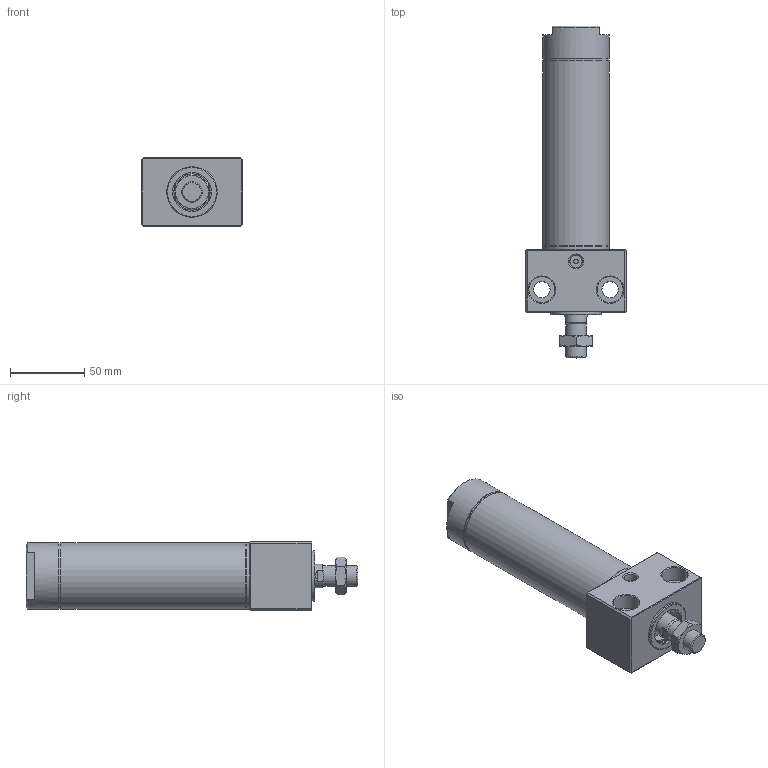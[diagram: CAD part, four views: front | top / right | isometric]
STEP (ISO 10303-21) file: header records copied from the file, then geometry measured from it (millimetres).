
FILE_DESCRIPTION((''),'2;1');
FILE_NAME('I:\3D電子目錄\氣缸\DBS\DBS\DBS40x75.stp','2007-10-08T08:49:02',('Administrator'),(''),'Autodesk Inventor 2008','Autodesk Inventor 2008','');
FILE_SCHEMA(('AUTOMOTIVE_DESIGN { 1 0 10303 214 1 1 1 1 }'));
Length unit declared in the file: millimetre
Products named in the file (1): DBS40x75
Bounding box: 68 x 223.6 x 46 mm (x, y, z)
Volume: 231362.3 mm3; surface area: 78518.5 mm2
Topology: 6 solids, 6 shells, 166 faces, 323 edges, 195 vertices
Faces by surface type: plane 74, cone 41, cylinder 35, bspline 13, torus 3
Full cylindrical faces by diameter (mm): 3 x1, 10.5 x1, 12 x1, 13 x1, 14 x2, 16 x1, 16.5 x1, 18 x1, 21 x2, 24 x3, 26 x2, 27.5 x1, 28 x2, 34 x1, 38 x2, 38.5 x2, 40 x1, 42.2 x6, 45 x4
Entity records: 3958 total; most frequent: CARTESIAN_POINT 865, DIRECTION 652, ORIENTED_EDGE 488, AXIS2_PLACEMENT_3D 287, EDGE_LOOP 280, EDGE_CURVE 244, VERTEX_POINT 188, FACE_OUTER_BOUND 166
